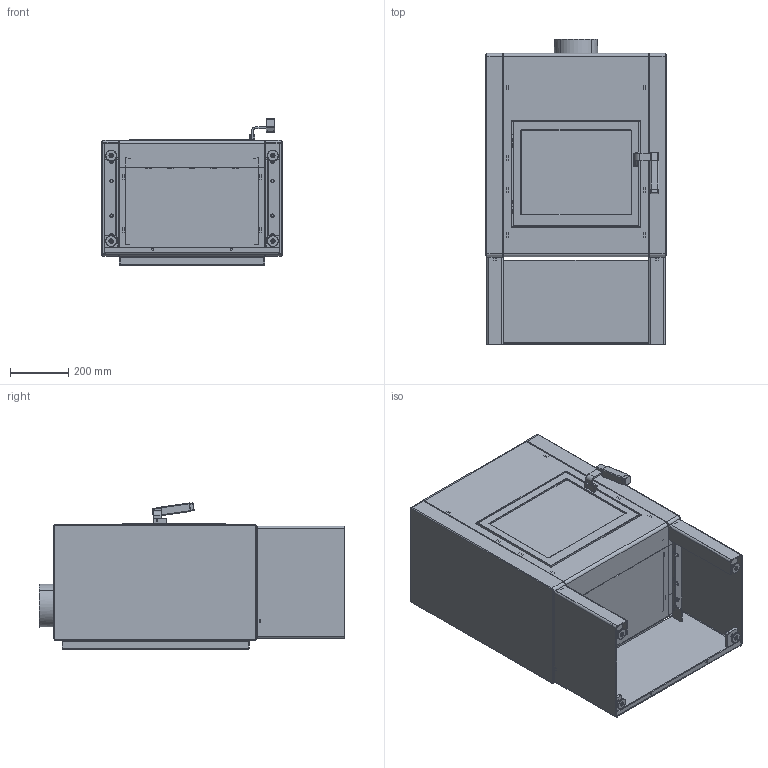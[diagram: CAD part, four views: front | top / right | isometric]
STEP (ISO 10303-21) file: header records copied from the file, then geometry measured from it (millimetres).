
FILE_DESCRIPTION (( 'STEP AP214' ), '1' );
FILE_NAME ('Harrie Leenders Mats.STEP', '2015-03-05T12:01:23', ( 'Rob' ), ( '' ), 'SwSTEP 2.0', 'SolidWorks 2015', '' );
FILE_SCHEMA (( 'AUTOMOTIVE_DESIGN' ));
Length unit declared in the file: millimetre
Products named in the file (1): Harrie Leenders Mats
Bounding box: 620 x 1052 x 503.76 mm (x, y, z)
Volume: 64872344.8 mm3; surface area: 8416422.9 mm2
Topology: 48 solids, 48 shells, 2421 faces, 6316 edges, 4008 vertices
Faces by surface type: plane 1221, cylinder 660, cone 244, bspline 147, torus 82, sphere 67
Entity records: 87223 total; most frequent: CARTESIAN_POINT 28425, ORIENTED_EDGE 12452, DIRECTION 11570, EDGE_CURVE 6226, VERTEX_POINT 3972, AXIS2_PLACEMENT_3D 3935, VECTOR 3700, LINE 3700
